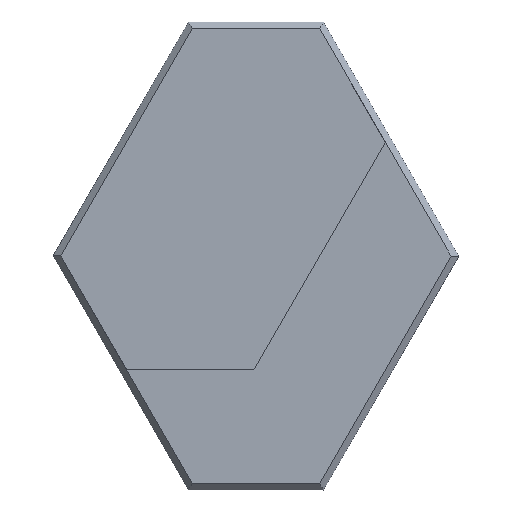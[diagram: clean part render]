
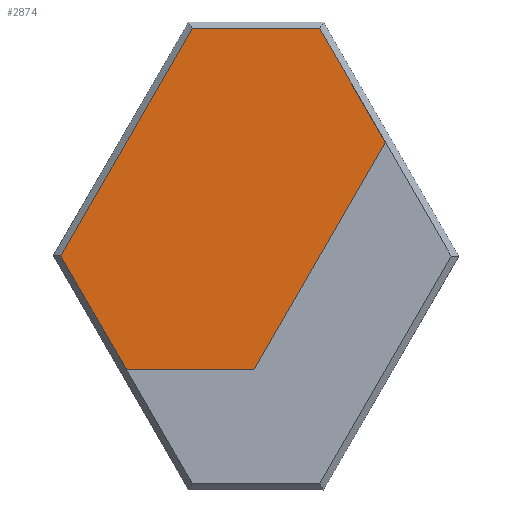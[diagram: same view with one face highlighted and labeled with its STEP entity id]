
A CAD part, front view. The second image highlights one B-rep face of the part: STEP entity #2874.
In plain terms, the highlighted planar face has unit normal (0, -1, 0) as drawn and (0, 0, 1) by its records, which use the part's own axes.
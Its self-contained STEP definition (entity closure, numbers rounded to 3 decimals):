
#146 = FACE_OUTER_BOUND ( 'NONE', #3018, .T. ) ;
#189 = VECTOR ( 'NONE', #2717, 1000. ) ;
#219 = CARTESIAN_POINT ( 'NONE',  ( 71.39, -41.253, 20. ) ) ;
#297 = LINE ( 'NONE', #3490, #2081 ) ;
#332 = CARTESIAN_POINT ( 'NONE',  ( 95.229, 340., 20. ) ) ;
#366 = DIRECTION ( 'NONE',  ( 0.5, -0.866, 0. ) ) ;
#490 = DIRECTION ( 'NONE',  ( 0., 0., 1. ) ) ;
#579 = ORIENTED_EDGE ( 'NONE', *, *, #1842, .T. ) ;
#600 = CARTESIAN_POINT ( 'NONE',  ( 193.465, 170., 20. ) ) ;
#687 = ORIENTED_EDGE ( 'NONE', *, *, #2830, .T. ) ;
#713 = CARTESIAN_POINT ( 'NONE',  ( 0., 340., 20. ) ) ;
#755 = ORIENTED_EDGE ( 'NONE', *, *, #3349, .T. ) ;
#788 = LINE ( 'NONE', #713, #977 ) ;
#937 = DIRECTION ( 'NONE',  ( 1., 0., 0. ) ) ;
#961 = EDGE_CURVE ( 'NONE', #1547, #1322, #3732, .T. ) ;
#977 = VECTOR ( 'NONE', #1689, 1000. ) ;
#1322 = VERTEX_POINT ( 'NONE', #600 ) ;
#1410 = VECTOR ( 'NONE', #2893, 1000. ) ;
#1439 = ORIENTED_EDGE ( 'NONE', *, *, #961, .T. ) ;
#1547 = VERTEX_POINT ( 'NONE', #3044 ) ;
#1653 = CARTESIAN_POINT ( 'NONE',  ( 0., 0., 20. ) ) ;
#1689 = DIRECTION ( 'NONE',  ( -1., 0., 0. ) ) ;
#1702 = LINE ( 'NONE', #3799, #1410 ) ;
#1765 = VECTOR ( 'NONE', #366, 1000. ) ;
#1767 = VERTEX_POINT ( 'NONE', #332 ) ;
#1781 = EDGE_CURVE ( 'NONE', #3587, #1547, #297, .T. ) ;
#1842 = EDGE_CURVE ( 'NONE', #2394, #3587, #3034, .T. ) ;
#1905 = ORIENTED_EDGE ( 'NONE', *, *, #2315, .T. ) ;
#2081 = VECTOR ( 'NONE', #937, 1000. ) ;
#2210 = CARTESIAN_POINT ( 'NONE',  ( -218.679, -126.365, 20. ) ) ;
#2315 = EDGE_CURVE ( 'NONE', #1322, #1767, #3614, .T. ) ;
#2394 = VERTEX_POINT ( 'NONE', #2773 ) ;
#2717 = DIRECTION ( 'NONE',  ( -0.5, 0.866, 0. ) ) ;
#2773 = CARTESIAN_POINT ( 'NONE',  ( -291.7, 0., 20. ) ) ;
#2800 = PLANE ( 'NONE',  #3535 ) ;
#2830 = EDGE_CURVE ( 'NONE', #1767, #3834, #788, .T. ) ;
#2874 = ADVANCED_FACE ( 'NONE', ( #146 ), #2800, .T. ) ;
#2893 = DIRECTION ( 'NONE',  ( -0.5, -0.866, 0. ) ) ;
#2929 = CARTESIAN_POINT ( 'NONE',  ( -95.229, 340., 20. ) ) ;
#2944 = VECTOR ( 'NONE', #3526, 1000. ) ;
#3018 = EDGE_LOOP ( 'NONE', ( #3608, #1439, #1905, #687, #755, #579 ) ) ;
#3034 = LINE ( 'NONE', #2210, #1765 ) ;
#3044 = CARTESIAN_POINT ( 'NONE',  ( -3.007, -170., 20. ) ) ;
#3349 = EDGE_CURVE ( 'NONE', #3834, #2394, #1702, .T. ) ;
#3471 = DIRECTION ( 'NONE',  ( 1., 0., 0. ) ) ;
#3490 = CARTESIAN_POINT ( 'NONE',  ( 0., -170., 20. ) ) ;
#3526 = DIRECTION ( 'NONE',  ( 0.5, 0.866, 0. ) ) ;
#3535 = AXIS2_PLACEMENT_3D ( 'NONE', #1653, #490, #3471 ) ;
#3587 = VERTEX_POINT ( 'NONE', #3673 ) ;
#3608 = ORIENTED_EDGE ( 'NONE', *, *, #1781, .T. ) ;
#3614 = LINE ( 'NONE', #3634, #189 ) ;
#3634 = CARTESIAN_POINT ( 'NONE',  ( 218.679, 126.365, 20. ) ) ;
#3673 = CARTESIAN_POINT ( 'NONE',  ( -193.465, -170., 20. ) ) ;
#3732 = LINE ( 'NONE', #219, #2944 ) ;
#3799 = CARTESIAN_POINT ( 'NONE',  ( -218.679, 126.365, 20. ) ) ;
#3834 = VERTEX_POINT ( 'NONE', #2929 ) ;
